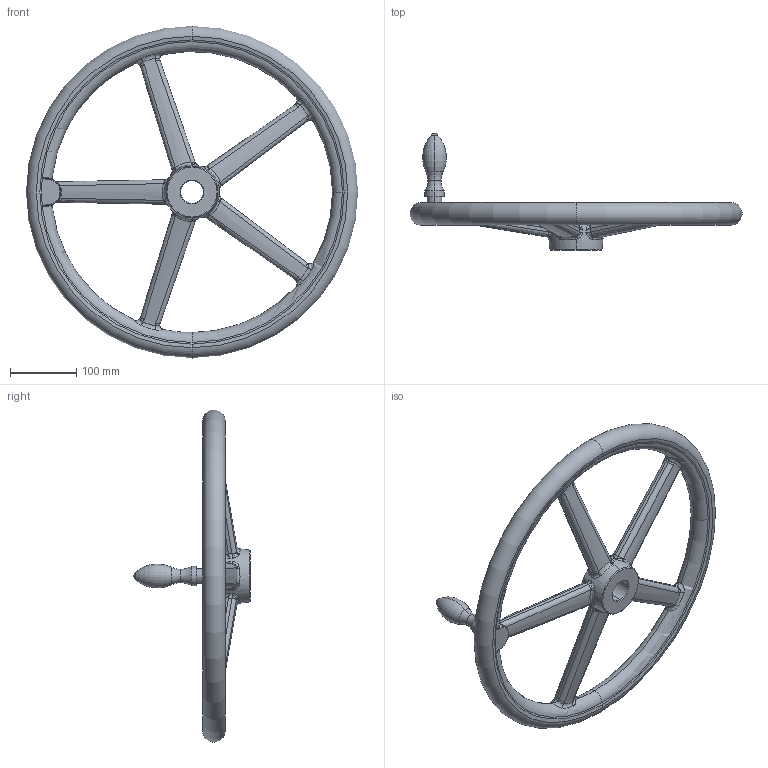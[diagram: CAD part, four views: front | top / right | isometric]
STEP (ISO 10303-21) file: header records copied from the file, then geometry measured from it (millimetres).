
FILE_DESCRIPTION (( 'STEP AP203' ), '1' );
FILE_NAME ('din950_d4_500x34.step', '2010-03-23T10:20:32', ( '_' ), ( '_' ), 'SwSTEP 2.0', 'SolidWorks 2010', '' );
FILE_SCHEMA (( 'CONFIG_CONTROL_DESIGN' ));
Length unit declared in the file: millimetre
Products named in the file (1): din950_d4_500x34
Bounding box: 499.87 x 176 x 499.87 mm (x, y, z)
Volume: 2285703.8 mm3; surface area: 274624.7 mm2
Topology: 1 solids, 1 shells, 286 faces, 708 edges, 373 vertices
Faces by surface type: bspline 218, torus 28, cone 16, plane 15, cylinder 7, sphere 2
Entity records: 64158 total; most frequent: CARTESIAN_POINT 58878, ORIENTED_EDGE 1328, DIRECTION 670, EDGE_CURVE 664, B_SPLINE_CURVE_WITH_KNOTS 387, VERTEX_POINT 373, AXIS2_PLACEMENT_3D 324, EDGE_LOOP 291
